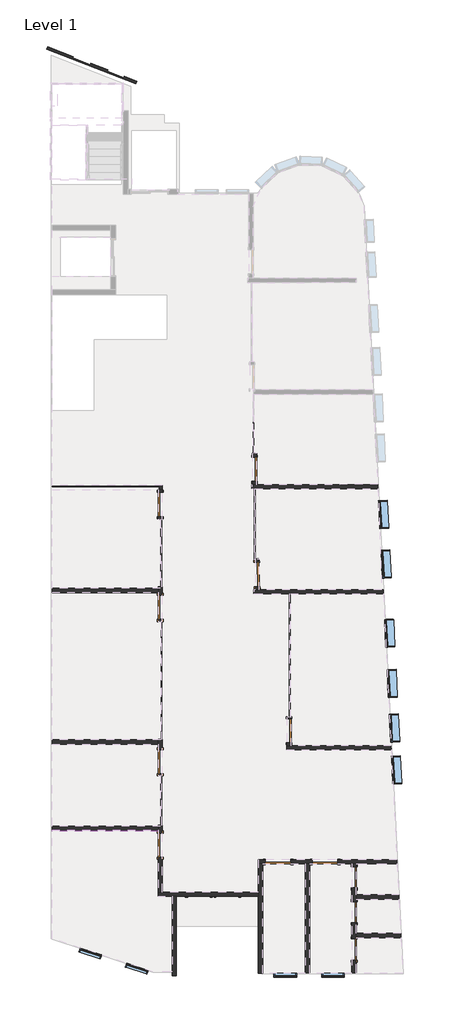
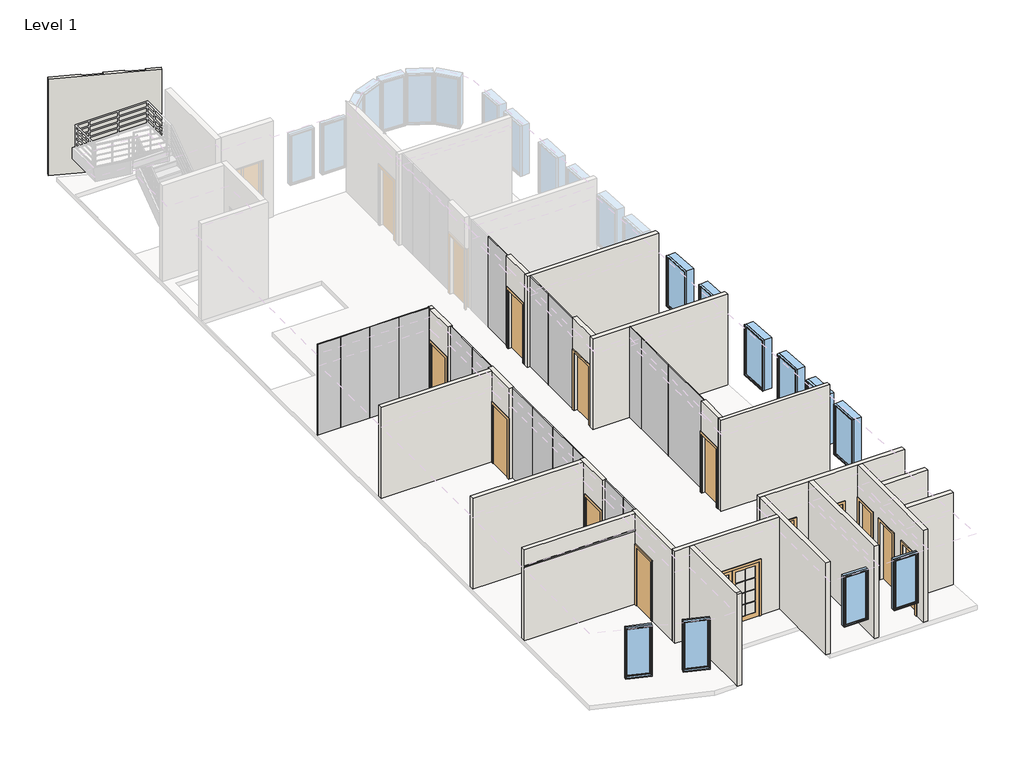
# One storey, part 1 of 4: 23 walls, 18 plates, 13 doors, 10 windows, 1 proxy.
"""IFC4 building model written with IfcOpenShell, lengths in millimetres."""

from ifc_helpers import new_model, si_unit, frame, origin, place, context, project, spatial, polyline, outline, extrude, faceted_brep, transform, mapped, element, save
from components import doors_1_doors_1_441175f9, m_single_flush_0762_x_2134mm_6e0fa8c7, m_single_flush_0864_x_2134mm_191ab4f9, m_single_flush_0915_x_2134mm_138fd904, system_panel_glazed_0a5cd876, system_panel_glazed_80297cd5, system_panel_glazed_2786322a, system_panel_glazed_84f5b725, system_panel_glazed_2528ea48, system_panel_glazed_aaef7275, system_panel_glazed_4545aa77, system_panel_glazed_6fbf2da9, system_panel_glazed_ad9418b8, system_panel_glazed_ed1850e7, system_panel_glazed_77398edd, system_panel_glazed_36099b5c, system_panel_glazed_c9b22899, system_panel_glazed_ebff84d4, system_panel_glazed_1be0ba14, system_panel_glazed_9542b9a6, wall_394c6471, m_fixed_0815_x_1830mm_2_422ed95c, m_fixed_1000_x_1830mm_2_ae03b894

model = new_model("IFC4")

# Units and contexts
model_context = context("Model", 3, world=origin())
ifc_project = project(units=[si_unit("LENGTHUNIT", "METRE", prefix="MILLI")], contexts=[model_context])

# Site, building, storey
site = spatial("IfcSite", under=ifc_project)
building = spatial("IfcBuilding", under=site)
storey = spatial("IfcBuildingStorey", under=building, Name="Level 1", Elevation=4500.0)

# Proxy
placement = place(None, origin())
element("IfcBuildingElementProxy", 1, Name="Reveal", ObjectType="Reveal", at=placement, inside=storey, context=model_context, shape_type="SweptSolid", body=[
    extrude(outline(polyline([(3749.6376114, -12798.8791407), (3749.6376114, -12848.8791407), (-50.0000039, -12848.8791407), (-50.0000039, -12798.8791407), (3749.6376114, -12798.8791407)])), frame((0.0, 0.0, 7175.0), z_axis=(0.0, 0.0, 1.0), x_axis=(1.0, 0.0, 0.0)), (0.0, 0.0, 1.0), 50.0),
])

# Doors
doors_1_doors_1_shape = doors_1_doors_1_441175f9(model_context)
element("IfcDoor", 2, ObjectType="Doors 1 : Doors 1", at=placement, inside=storey, context=model_context, shape_type="MappedRepresentation", body=[
    mapped(doors_1_doors_1_shape, transform((0.0, 0.0, 0.0), x_axis=(1.0, 0.0, 0.0), y_axis=(0.0, 1.0, 0.0), z_axis=(0.0, 0.0, 1.0))),
])
m_single_flush_0762_x_2134mm_shape = m_single_flush_0762_x_2134mm_6e0fa8c7(model_context)
element("IfcDoor", 3, ObjectType="M_Single-Flush : 0762 x 2134mm", at=placement, inside=storey, context=model_context, shape_type="MappedRepresentation", body=[
    mapped(m_single_flush_0762_x_2134mm_shape, transform((10772.5716703, -14508.5279318, 4500.0), x_axis=(0.0, 1.0, 0.0), y_axis=(-1.0, 0.0, 0.0), z_axis=(0.0, 0.0, 1.0))),
])
element("IfcDoor", 4, ObjectType="M_Single-Flush : 0762 x 2134mm", at=placement, inside=storey, context=model_context, shape_type="MappedRepresentation", body=[
    mapped(m_single_flush_0762_x_2134mm_shape, transform((10772.5716703, -15758.5279318, 4500.0), x_axis=(0.0, 1.0, 0.0), y_axis=(-1.0, 0.0, 0.0), z_axis=(0.0, 0.0, 1.0))),
])
element("IfcDoor", 5, ObjectType="M_Single-Flush : 0762 x 2134mm", at=placement, inside=storey, context=model_context, shape_type="MappedRepresentation", body=[
    mapped(m_single_flush_0762_x_2134mm_shape, transform((10772.5716703, -17098.5279318, 4500.0), x_axis=(0.0, 1.0, 0.0), y_axis=(-1.0, 0.0, 0.0), z_axis=(0.0, 0.0, 1.0))),
])
m_single_flush_0864_x_2134mm_shape = m_single_flush_0864_x_2134mm_191ab4f9(model_context)
element("IfcDoor", 6, ObjectType="M_Single-Flush : 0864 x 2134mm", at=placement, inside=storey, context=model_context, shape_type="MappedRepresentation", body=[
    mapped(m_single_flush_0864_x_2134mm_shape, transform((3824.6376114, -10369.5773389, 4500.0), x_axis=(0.0, 1.0, 0.0), y_axis=(-1.0, 0.0, 0.0), z_axis=(0.0, 0.0, 1.0))),
])
element("IfcDoor", 7, ObjectType="M_Single-Flush : 0864 x 2134mm", at=placement, inside=storey, context=model_context, shape_type="MappedRepresentation", body=[
    mapped(m_single_flush_0864_x_2134mm_shape, transform((3824.6376114, -4835.7038617, 4500.0), x_axis=(0.0, 1.0, 0.0), y_axis=(-1.0, 0.0, 0.0), z_axis=(0.0, 0.0, 1.0))),
])
element("IfcDoor", 8, ObjectType="M_Single-Flush : 0864 x 2134mm", at=placement, inside=storey, context=model_context, shape_type="MappedRepresentation", body=[
    mapped(m_single_flush_0864_x_2134mm_shape, transform((3824.6376114, -1149.1675364, 4500.0), x_axis=(0.0, 1.0, 0.0), y_axis=(-1.0, 0.0, 0.0), z_axis=(0.0, 0.0, 1.0))),
])
element("IfcDoor", 9, ObjectType="M_Single-Flush : 0864 x 2134mm", at=placement, inside=storey, context=model_context, shape_type="MappedRepresentation", body=[
    mapped(m_single_flush_0864_x_2134mm_shape, transform((3824.6376114, -13355.8791407, 4500.0), x_axis=(0.0, 1.0, 0.0), y_axis=(-1.0, 0.0, 0.0), z_axis=(0.0, 0.0, 1.0))),
])
element("IfcDoor", 10, ObjectType="M_Single-Flush : 0864 x 2134mm", at=placement, inside=storey, context=model_context, shape_type="MappedRepresentation", body=[
    mapped(m_single_flush_0864_x_2134mm_shape, transform((7197.8570765, 107.177138, 4500.0), x_axis=(0.0, -1.0, 0.0), y_axis=(1.0, 0.0, 0.0), z_axis=(0.0, 0.0, 1.0))),
])
element("IfcDoor", 11, ObjectType="M_Single-Flush : 0864 x 2134mm", at=placement, inside=storey, context=model_context, shape_type="MappedRepresentation", body=[
    mapped(m_single_flush_0864_x_2134mm_shape, transform((7288.4725755, -3657.4129777, 4500.0), x_axis=(0.01987244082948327, -0.9998025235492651, 0.0), y_axis=(0.9998025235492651, 0.01987244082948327, 0.0), z_axis=(0.0, 0.0, 1.0))),
])
element("IfcDoor", 12, ObjectType="M_Single-Flush : 0864 x 2134mm", at=placement, inside=storey, context=model_context, shape_type="MappedRepresentation", body=[
    mapped(m_single_flush_0864_x_2134mm_shape, transform((8435.4667664, -9258.0867626, 4500.0), x_axis=(0.0, -1.0, 0.0), y_axis=(1.0, 0.0, 0.0), z_axis=(0.0, 0.0, 1.0))),
])
m_single_flush_0915_x_2134mm_shape = m_single_flush_0915_x_2134mm_138fd904(model_context)
element("IfcDoor", 13, ObjectType="M_Single-Flush : 0915 x 2134mm", at=placement, inside=storey, context=model_context, shape_type="MappedRepresentation", body=[
    mapped(m_single_flush_0915_x_2134mm_shape, transform((9730.071739, -13952.5279318, 4500.0), x_axis=(-1.0, 0.0, 0.0), y_axis=(0.0, -1.0, 0.0), z_axis=(0.0, 0.0, 1.0))),
])
element("IfcDoor", 14, ObjectType="M_Single-Flush : 0915 x 2134mm", at=placement, inside=storey, context=model_context, shape_type="MappedRepresentation", body=[
    mapped(m_single_flush_0915_x_2134mm_shape, transform((8047.5200629, -13952.5279318, 4500.0), x_axis=(-1.0, 0.0, 0.0), y_axis=(0.0, -1.0, 0.0), z_axis=(0.0, 0.0, 1.0))),
])

# Plates
system_panel_glazed_shape = system_panel_glazed_0a5cd876(model_context)
element("IfcPlate", 15, ObjectType="System Panel : Glazed", at=placement, inside=storey, context=model_context, shape_type="MappedRepresentation", body=[
    mapped(system_panel_glazed_shape, transform((8499.9667664, -5865.0867626, 4500.0), x_axis=(0.0, 1.0, 0.0), y_axis=(-1.0, 0.0, 0.0), z_axis=(0.0, 0.0, 1.0))),
])
system_panel_glazed_2_shape = system_panel_glazed_80297cd5(model_context)
element("IfcPlate", 16, ObjectType="System Panel : Glazed", at=placement, inside=storey, context=model_context, shape_type="MappedRepresentation", body=[
    mapped(system_panel_glazed_2_shape, transform((8499.9667664, -4710.1957662, 4500.0), x_axis=(0.0, 1.0, 0.0), y_axis=(-1.0, 0.0, 0.0), z_axis=(0.0, 0.0, 1.0))),
])
system_panel_glazed_3_shape = system_panel_glazed_2786322a(model_context)
element("IfcPlate", 17, ObjectType="System Panel : Glazed", at=placement, inside=storey, context=model_context, shape_type="MappedRepresentation", body=[
    mapped(system_panel_glazed_3_shape, transform((7249.3137467, -1140.3486306, 4500.0), x_axis=(0.0, 1.0, 0.0), y_axis=(-1.0, 0.0, 0.0), z_axis=(0.0, 0.0, 1.0))),
])
system_panel_glazed_4_shape = system_panel_glazed_84f5b725(model_context)
element("IfcPlate", 18, ObjectType="System Panel : Glazed", at=placement, inside=storey, context=model_context, shape_type="MappedRepresentation", body=[
    mapped(system_panel_glazed_4_shape, transform((3834.6376114, -5937.1675364, 4500.0), x_axis=(0.0, -1.0, 0.0), y_axis=(1.0, 0.0, 0.0), z_axis=(0.0, 0.0, 1.0))),
])
element("IfcPlate", 19, ObjectType="System Panel : Glazed", at=placement, inside=storey, context=model_context, shape_type="MappedRepresentation", body=[
    mapped(system_panel_glazed_4_shape, transform((3834.6376114, -7137.1675364, 4500.0), x_axis=(0.0, -1.0, 0.0), y_axis=(1.0, 0.0, 0.0), z_axis=(0.0, 0.0, 1.0))),
])
system_panel_glazed_5_shape = system_panel_glazed_2528ea48(model_context)
element("IfcPlate", 20, ObjectType="System Panel : Glazed", at=placement, inside=storey, context=model_context, shape_type="MappedRepresentation", body=[
    mapped(system_panel_glazed_5_shape, transform((2239.6376114, -467.1675364, 4500.0), x_axis=(-1.0, 0.0, 0.0), y_axis=(0.0, -1.0, 0.0), z_axis=(0.0, 0.0, 1.0))),
])
element("IfcPlate", 21, ObjectType="System Panel : Glazed", at=placement, inside=storey, context=model_context, shape_type="MappedRepresentation", body=[
    mapped(system_panel_glazed_5_shape, transform((1239.6376114, -467.1675364, 4500.0), x_axis=(-1.0, 0.0, 0.0), y_axis=(0.0, -1.0, 0.0), z_axis=(0.0, 0.0, 1.0))),
])
system_panel_glazed_6_shape = system_panel_glazed_aaef7275(model_context)
element("IfcPlate", 22, ObjectType="System Panel : Glazed", at=placement, inside=storey, context=model_context, shape_type="MappedRepresentation", body=[
    mapped(system_panel_glazed_6_shape, transform((8499.9667664, -7715.0867626, 4500.0), x_axis=(0.0, 1.0, 0.0), y_axis=(-1.0, 0.0, 0.0), z_axis=(0.0, 0.0, 1.0))),
])
system_panel_glazed_7_shape = system_panel_glazed_4545aa77(model_context)
element("IfcPlate", 23, ObjectType="System Panel : Glazed", at=placement, inside=storey, context=model_context, shape_type="MappedRepresentation", body=[
    mapped(system_panel_glazed_7_shape, transform((7249.3137467, -2397.2928434, 4500.0), x_axis=(0.0, 1.0, 0.0), y_axis=(-1.0, 0.0, 0.0), z_axis=(0.0, 0.0, 1.0))),
])
system_panel_glazed_8_shape = system_panel_glazed_6fbf2da9(model_context)
element("IfcPlate", 24, ObjectType="System Panel : Glazed", at=placement, inside=storey, context=model_context, shape_type="MappedRepresentation", body=[
    mapped(system_panel_glazed_8_shape, transform((7197.8570765, 1241.8692038, 4500.0), x_axis=(0.0, 1.0, 0.0), y_axis=(-1.0, 0.0, 0.0), z_axis=(0.0, 0.0, 1.0))),
])
system_panel_glazed_9_shape = system_panel_glazed_ad9418b8(model_context)
element("IfcPlate", 25, ObjectType="System Panel : Glazed", at=placement, inside=storey, context=model_context, shape_type="MappedRepresentation", body=[
    mapped(system_panel_glazed_9_shape, transform((3824.6376114, -2327.1675364, 4500.0), x_axis=(0.0, -1.0, 0.0), y_axis=(1.0, 0.0, 0.0), z_axis=(0.0, 0.0, 1.0))),
])
system_panel_glazed_10_shape = system_panel_glazed_ed1850e7(model_context)
element("IfcPlate", 26, ObjectType="System Panel : Glazed", at=placement, inside=storey, context=model_context, shape_type="MappedRepresentation", body=[
    mapped(system_panel_glazed_10_shape, transform((3824.6376114, -3537.1675364, 4500.0), x_axis=(0.0, -1.0, 0.0), y_axis=(1.0, 0.0, 0.0), z_axis=(0.0, 0.0, 1.0))),
])
system_panel_glazed_11_shape = system_panel_glazed_77398edd(model_context)
element("IfcPlate", 27, ObjectType="System Panel : Glazed", at=placement, inside=storey, context=model_context, shape_type="MappedRepresentation", body=[
    mapped(system_panel_glazed_11_shape, transform((3834.6376114, -8338.848693, 4500.0), x_axis=(0.0, -1.0, 0.0), y_axis=(1.0, 0.0, 0.0), z_axis=(0.0, 0.0, 1.0))),
])
system_panel_glazed_12_shape = system_panel_glazed_36099b5c(model_context)
element("IfcPlate", 28, ObjectType="System Panel : Glazed", at=placement, inside=storey, context=model_context, shape_type="MappedRepresentation", body=[
    mapped(system_panel_glazed_12_shape, transform((3834.6376114, -9248.848693, 4500.0), x_axis=(0.0, -1.0, 0.0), y_axis=(1.0, 0.0, 0.0), z_axis=(0.0, 0.0, 1.0))),
])
system_panel_glazed_13_shape = system_panel_glazed_c9b22899(model_context)
element("IfcPlate", 29, ObjectType="System Panel : Glazed", at=placement, inside=storey, context=model_context, shape_type="MappedRepresentation", body=[
    mapped(system_panel_glazed_13_shape, transform((3824.6376114, -11407.1675364, 4500.0), x_axis=(0.0, -1.0, 0.0), y_axis=(1.0, 0.0, 0.0), z_axis=(0.0, 0.0, 1.0))),
])
system_panel_glazed_14_shape = system_panel_glazed_ebff84d4(model_context)
element("IfcPlate", 30, ObjectType="System Panel : Glazed", at=placement, inside=storey, context=model_context, shape_type="MappedRepresentation", body=[
    mapped(system_panel_glazed_14_shape, transform((3824.6376114, -12297.1675364, 4500.0), x_axis=(0.0, -1.0, 0.0), y_axis=(1.0, 0.0, 0.0), z_axis=(0.0, 0.0, 1.0))),
])
system_panel_glazed_15_shape = system_panel_glazed_1be0ba14(model_context)
element("IfcPlate", 31, ObjectType="System Panel : Glazed", at=placement, inside=storey, context=model_context, shape_type="MappedRepresentation", body=[
    mapped(system_panel_glazed_15_shape, transform((3259.6376114, -467.1675364, 4500.0), x_axis=(-1.0, 0.0, 0.0), y_axis=(0.0, -1.0, 0.0), z_axis=(0.0, 0.0, 1.0))),
])
system_panel_glazed_16_shape = system_panel_glazed_9542b9a6(model_context)
element("IfcPlate", 32, ObjectType="System Panel : Glazed", at=placement, inside=storey, context=model_context, shape_type="MappedRepresentation", body=[
    mapped(system_panel_glazed_16_shape, transform((344.8188037, -467.1675364, 4500.0), x_axis=(-1.0, 0.0, 0.0), y_axis=(0.0, -1.0, 0.0), z_axis=(0.0, 0.0, 1.0))),
])

# Walls
element("IfcWall", 33, ObjectType="Generic - 15cm-gypsu-2boith", at=placement, inside=storey, context=model_context, shape_type="Brep", body=[
    faceted_brep([(11612.8107888, -430.9502585, 4500.0), (7272.8570765, -443.3366135, 4500.0), (7122.8570765, -443.7647178, 4500.0), (7102.1267533, -443.8238828, 4500.0), (7102.1267533, -443.8238828, 7800.0), (7122.8570765, -443.7647178, 7800.0), (7272.8570765, -443.3366135, 7800.0), (11612.8107888, -430.9502585, 7800.0), (11620.447224, -580.9290748, 4500.0), (11620.447224, -580.9290748, 7800.0), (7102.5548559, -593.8232719, 7800.0), (7102.5548559, -593.8232719, 4500.0)], [[[0, 1, 2, 3, 4, 5, 6, 7]], [[8, 9, 10, 11]], [[3, 2, 1, 0, 8, 11]], [[4, 3, 11, 10]], [[7, 6, 5, 4, 10, 9]], [[0, 7, 9, 8]]]),
])
element("IfcWall", 34, ObjectType="Generic - 15cm-gypsu-2boith", at=placement, inside=storey, context=model_context, shape_type="Brep", body=[
    faceted_brep([(11804.9886858, -4205.3047697, 4500.0), (7374.3774869, -4205.3047697, 4500.0), (7224.3478595, -4205.3047697, 4500.0), (7177.3194387, -4205.3047697, 4500.0), (7177.3194387, -4205.3047697, 7800.0), (7224.3478595, -4205.3047697, 7800.0), (7374.3774869, -4205.3047697, 7800.0), (11804.9886858, -4205.3047697, 7800.0), (11812.6261996, -4355.3047697, 4500.0), (11812.6261996, -4355.3047697, 7800.0), (7177.3194387, -4355.3047697, 7800.0), (7177.3194387, -4355.3047697, 4500.0)], [[[0, 1, 2, 3, 4, 5, 6, 7]], [[8, 9, 10, 11]], [[3, 2, 1, 0, 8, 11]], [[4, 3, 11, 10]], [[7, 6, 5, 4, 10, 9]], [[0, 7, 9, 8]]]),
])
element("IfcWall", 35, ObjectType="Generic - 15cm-gypsu-2boith", at=placement, inside=storey, context=model_context, shape_type="SweptSolid", body=[
    extrude(outline(polyline([(3779.6376114, -467.1675364), (3899.6376114, -467.1675364), (3899.6376114, -617.1675364), (3779.6376114, -617.1675364), (3779.6376114, -467.1675364)])), frame((0.0, 0.0, 4500.0), z_axis=(0.0, 0.0, 1.0), x_axis=(1.0, 0.0, 0.0)), (0.0, 0.0, 1.0), 3300.0),
])
element("IfcWall", 36, ObjectType="Generic - 15cm-gypsu-2boith", at=placement, inside=storey, context=model_context, shape_type="SweptSolid", body=[
    extrude(outline(polyline([(-50.0000039, -4153.7038617), (3749.6376114, -4153.7038617), (3749.6376114, -4303.7038617), (-50.0000039, -4303.7038617), (-50.0000039, -4153.7038617)])), frame((0.0, 0.0, 4500.0), z_axis=(0.0, 0.0, 1.0), x_axis=(1.0, 0.0, 0.0)), (0.0, 0.0, 1.0), 3300.0),
])
element("IfcWall", 37, ObjectType="Generic - 15cm-gypsu-2boith", at=placement, inside=storey, context=model_context, shape_type="SweptSolid", body=[
    extrude(outline(polyline([(-12673.8791407, 7800.0), (-12673.8791407, 4500.0), (-12823.8791407, 4500.0), (-12823.8791407, 7175.0), (-12798.8791407, 7175.0), (-12798.8791407, 7225.0), (-12823.8791407, 7225.0), (-12823.8791407, 7800.0), (-12673.8791407, 7800.0)])), frame((-50.0000039, 0.0, 0.0), z_axis=(1.0, 0.0, 0.0), x_axis=(0.0, 1.0, 0.0)), (0.0, 0.0, 1.0), 3799.6376153),
])
element("IfcWall", 38, ObjectType="Generic - 15cm-granit&gypsum", at=placement, inside=storey, context=model_context, shape_type="Brep", body=[
    faceted_brep([(3749.6376114, -617.1675364, 4500.0), (3749.6376114, -717.1675364, 4500.0), (3749.6376114, -717.1675364, 6634.0), (3749.6376114, -1581.1675364, 6634.0), (3749.6376114, -1581.1675364, 4500.0), (3749.6376114, -1677.1675364, 4500.0), (3749.6376114, -1677.1675364, 7800.0), (3749.6376114, -617.1675364, 7800.0), (3899.6376114, -717.1675364, 6634.0), (3899.6376114, -717.1675364, 4500.0), (3899.6376114, -617.1675364, 4500.0), (3899.6376114, -617.1675364, 7800.0), (3899.6376114, -1677.1675364, 7800.0), (3899.6376114, -1677.1675364, 4500.0), (3899.6376114, -1581.1675364, 4500.0), (3899.6376114, -1581.1675364, 6634.0), (3779.6376114, -617.1675364, 4500.0), (3779.6376114, -617.1675364, 7800.0)], [[[0, 1, 2, 3, 4, 5, 6, 7]], [[8, 9, 10, 11, 12, 13, 14, 15]], [[14, 13, 5, 4]], [[10, 9, 1, 0, 16]], [[6, 5, 13, 12]], [[7, 6, 12, 11, 17]], [[0, 7, 17, 11, 10, 16]], [[2, 1, 9, 8]], [[3, 2, 8, 15]], [[4, 3, 15, 14]]]),
])
element("IfcWall", 39, ObjectType="Generic - 15cm-gypsu-2boith", at=placement, inside=storey, context=model_context, shape_type="SweptSolid", body=[
    extrude(outline(polyline([(-48.7142884, -9587.5773389), (3749.6376114, -9587.5773389), (3749.6376114, -9737.5773389), (-48.7142884, -9737.5773389), (-48.7142884, -9587.5773389)])), frame((0.0, 0.0, 4500.0), z_axis=(0.0, 0.0, 1.0), x_axis=(1.0, 0.0, 0.0)), (0.0, 0.0, 1.0), 3300.0),
])
element("IfcWall", 40, ObjectType="Generic - 15cm-gypsu-2boith", at=placement, inside=storey, context=model_context, shape_type="Brep", body=[
    faceted_brep([(8360.4667664, -9940.0867626, 4500.0), (12096.9851954, -9940.0867626, 4500.0), (12096.9851954, -9940.0867626, 7800.0), (8360.4667664, -9940.0867626, 7800.0), (8360.4667664, -9790.0867626, 4500.0), (8360.4667664, -9790.0867626, 7800.0), (8510.4667664, -9790.0867626, 7800.0), (12089.3476816, -9790.0867626, 7800.0), (12089.3476816, -9790.0867626, 4500.0), (8510.4667664, -9790.0867626, 4500.0)], [[[0, 1, 2, 3]], [[4, 5, 6, 7, 8, 9]], [[1, 0, 4, 9, 8]], [[3, 2, 7, 6, 5]], [[0, 3, 5, 4]], [[2, 1, 8, 7]]]),
])
element("IfcWall", 41, ObjectType="Generic - 15cm-gypsu-2boith", at=placement, inside=storey, context=model_context, shape_type="SweptSolid", body=[
    extrude(outline(polyline([(-9690.0867626, 6634.0), (-9690.0867626, 4500.0), (-9790.0867626, 4500.0), (-9790.0867626, 7800.0), (-8765.0867626, 7800.0), (-8765.0867626, 4500.0), (-8826.0867626, 4500.0), (-8826.0867626, 6634.0), (-9690.0867626, 6634.0)])), frame((8360.4667664, 0.0, 0.0), z_axis=(1.0, 0.0, 0.0), x_axis=(0.0, 1.0, 0.0)), (0.0, 0.0, 1.0), 150.0),
])
element("IfcWall", 42, ObjectType="Generic - 15cm-gypsu-2boith", at=placement, inside=storey, context=model_context, shape_type="Brep", body=[
    faceted_brep([(7122.8570765, -324.822862, 6634.0), (7122.8570765, -324.822862, 4500.0), (7122.8570765, -443.7647178, 4500.0), (7122.8570765, -443.7647178, 7800.0), (7122.8570765, 681.4490289, 7800.0), (7122.8570765, 681.4490289, 4500.0), (7122.8570765, 539.177138, 4500.0), (7122.8570765, 539.177138, 6634.0), (7272.8570765, -443.3366135, 4500.0), (7272.8570765, -324.822862, 4500.0), (7272.8570765, -324.822862, 6634.0), (7272.8570765, 539.177138, 6634.0), (7272.8570765, 539.177138, 4500.0), (7272.8570765, 681.4490289, 4500.0), (7272.8570765, 681.4490289, 7800.0), (7272.8570765, -443.3366135, 7800.0)], [[[0, 1, 2, 3, 4, 5, 6, 7]], [[8, 9, 10, 11, 12, 13, 14, 15]], [[6, 5, 13, 12]], [[2, 1, 9, 8]], [[4, 3, 15, 14]], [[5, 4, 14, 13]], [[12, 11, 7, 6]], [[11, 10, 0, 7]], [[10, 9, 1, 0]], [[3, 2, 8, 15]]]),
])
element("IfcWall", 43, ObjectType="Generic - 15cm-gypsu-2boith", at=placement, inside=storey, context=model_context, shape_type="Brep", body=[
    faceted_brep([(7224.3478595, -4205.3047697, 7800.0), (7202.4187312, -3102.028225, 7800.0), (7202.4187312, -3102.028225, 4500.0), (7204.9024917, -3226.9887206, 4500.0), (7204.9024917, -3226.9887206, 6634.0), (7222.0722806, -4090.818101, 6634.0), (7222.0722806, -4090.818101, 4500.0), (7224.3478595, -4205.3047697, 4500.0), (7352.3891097, -3099.0473589, 7800.0), (7374.3774869, -4205.3047697, 7800.0), (7374.3774869, -4205.3047697, 4500.0), (7372.0426592, -4087.8372348, 4500.0), (7372.0426592, -4087.8372348, 6634.0), (7354.8728703, -3224.0078545, 6634.0), (7354.8728703, -3224.0078545, 4500.0), (7352.3891097, -3099.0473589, 4500.0), (7249.3137467, -3101.0961225, 4500.0), (7249.3137467, -3107.2928434, 4500.0), (7274.3137467, -3107.2928434, 4500.0), (7274.3137467, -3100.5992133, 4500.0), (7274.3137467, -3100.5992133, 7800.0), (7274.3137467, -3107.2928434, 7800.0), (7249.3137467, -3107.2928434, 7800.0), (7249.3137467, -3101.0961225, 7800.0)], [[[0, 1, 2, 3, 4, 5, 6, 7]], [[8, 9, 10, 11, 12, 13, 14, 15]], [[10, 7, 6, 11]], [[14, 3, 2, 16, 17, 18, 19, 15]], [[1, 0, 9, 8, 20, 21, 22, 23]], [[2, 1, 23, 16]], [[8, 15, 19, 20]], [[0, 7, 10, 9]], [[14, 13, 4, 3]], [[13, 12, 5, 4]], [[12, 11, 6, 5]], [[18, 21, 20, 19]], [[22, 17, 16, 23]], [[21, 18, 17, 22]]]),
])
element("IfcWall", 44, ObjectType="Generic - 15cm-granit&gypsum", at=placement, inside=storey, context=model_context, shape_type="Brep", body=[
    faceted_brep([(3749.6376114, -5337.1675364, 4500.0), (3749.6376114, -5337.1675364, 7800.0), (3749.6376114, -4303.7038617, 7800.0), (3749.6376114, -4153.7038617, 7800.0), (3749.6376114, -4097.1675364, 7800.0), (3749.6376114, -4097.1675364, 4500.0), (3749.6376114, -4153.7038617, 4500.0), (3749.6376114, -4303.7038617, 4500.0), (3749.6376114, -4403.7038617, 4500.0), (3749.6376114, -4403.7038617, 6634.0), (3749.6376114, -5267.7038617, 6634.0), (3749.6376114, -5267.7038617, 4500.0), (3899.6376114, -5337.1675364, 7800.0), (3899.6376114, -5337.1675364, 4500.0), (3899.6376114, -5267.7038617, 4500.0), (3899.6376114, -5267.7038617, 6634.0), (3899.6376114, -4403.7038617, 6634.0), (3899.6376114, -4403.7038617, 4500.0), (3899.6376114, -4097.1675364, 4500.0), (3899.6376114, -4097.1675364, 7800.0)], [[[0, 1, 2, 3, 4, 5, 6, 7, 8, 9, 10, 11]], [[12, 13, 14, 15, 16, 17, 18, 19]], [[13, 0, 11, 14]], [[5, 18, 17, 8, 7, 6]], [[1, 0, 13, 12]], [[4, 3, 2, 1, 12, 19]], [[5, 4, 19, 18]], [[16, 9, 8, 17]], [[9, 16, 15, 10]], [[10, 15, 14, 11]]]),
])
element("IfcWall", 45, ObjectType="Generic - 15cm-granit&gypsum", at=placement, inside=storey, context=model_context, shape_type="Brep", body=[
    faceted_brep([(3749.6376114, -10857.1675364, 4500.0), (3749.6376114, -10857.1675364, 7800.0), (3749.6376114, -9737.5773389, 7800.0), (3749.6376114, -9587.5773389, 7800.0), (3749.6376114, -9557.1675364, 7800.0), (3749.6376114, -9557.1675364, 4500.0), (3749.6376114, -9587.5773389, 4500.0), (3749.6376114, -9737.5773389, 4500.0), (3749.6376114, -9937.5773389, 4500.0), (3749.6376114, -9937.5773389, 6634.0), (3749.6376114, -10801.5773389, 6634.0), (3749.6376114, -10801.5773389, 4500.0), (3899.6376114, -10857.1675364, 7800.0), (3899.6376114, -10857.1675364, 4500.0), (3899.6376114, -10801.5773389, 4500.0), (3899.6376114, -10801.5773389, 6634.0), (3899.6376114, -9937.5773389, 6634.0), (3899.6376114, -9937.5773389, 4500.0), (3899.6376114, -9557.1675364, 4500.0), (3899.6376114, -9557.1675364, 7800.0)], [[[0, 1, 2, 3, 4, 5, 6, 7, 8, 9, 10, 11]], [[12, 13, 14, 15, 16, 17, 18, 19]], [[13, 0, 11, 14]], [[5, 18, 17, 8, 7, 6]], [[1, 0, 13, 12]], [[4, 3, 2, 1, 12, 19]], [[5, 4, 19, 18]], [[16, 9, 8, 17]], [[9, 16, 15, 10]], [[10, 15, 14, 11]]]),
])
element("IfcWall", 46, ObjectType="Generic - 15cm-granit&gypsum", at=placement, inside=storey, context=model_context, shape_type="Brep", body=[
    faceted_brep([(3749.6376114, -15035.1933026, 7800.0), (3749.6376114, -12823.8791407, 7800.0), (3749.6376114, -12673.8791407, 7800.0), (3749.6376114, -12637.1675364, 7800.0), (3749.6376114, -12637.1675364, 4500.0), (3749.6376114, -12673.8791407, 4500.0), (3749.6376114, -12823.8791407, 4500.0), (3749.6376114, -12923.8791407, 4500.0), (3749.6376114, -12923.8791407, 6634.0), (3749.6376114, -13787.8791407, 6634.0), (3749.6376114, -13787.8791407, 4500.0), (3749.6376114, -15035.1933026, 4500.0), (3899.6376114, -12637.1675364, 7800.0), (3899.6376114, -15035.1933026, 7800.0), (3899.6376114, -15035.1933026, 4500.0), (3899.6376114, -13787.8791407, 4500.0), (3899.6376114, -13787.8791407, 6634.0), (3899.6376114, -12923.8791407, 6634.0), (3899.6376114, -12923.8791407, 4500.0), (3899.6376114, -12637.1675364, 4500.0)], [[[0, 1, 2, 3, 4, 5, 6, 7, 8, 9, 10, 11]], [[12, 13, 14, 15, 16, 17, 18, 19]], [[4, 19, 18, 7, 6, 5]], [[14, 11, 10, 15]], [[3, 2, 1, 0, 13, 12]], [[4, 3, 12, 19]], [[17, 8, 7, 18]], [[8, 17, 16, 9]], [[9, 16, 15, 10]], [[0, 11, 14, 13]]]),
])
element("IfcWall", 47, ObjectType="Generic - 15cm-granit&gypsum", at=placement, inside=storey, context=model_context, shape_type="Brep", body=[
    faceted_brep([(9272.571739, -13877.5279318, 6634.0), (9272.571739, -13877.5279318, 4500.0), (8505.0200629, -13877.5279318, 4500.0), (8505.0200629, -13877.5279318, 6634.0), (7590.0200629, -13877.5279318, 6634.0), (7590.0200629, -13877.5279318, 4500.0), (7340.0200629, -13877.5279318, 4500.0), (7340.0200629, -13877.5279318, 7850.0), (12297.4669364, -13877.5279318, 7850.0), (12297.4669364, -13877.5279318, 4500.0), (10187.571739, -13877.5279318, 4500.0), (10187.571739, -13877.5279318, 6634.0), (9272.571739, -14027.5279318, 4500.0), (9272.571739, -14027.5279318, 6634.0), (10187.571739, -14027.5279318, 6634.0), (10187.571739, -14027.5279318, 4500.0), (10692.5716703, -14027.5279318, 4500.0), (10852.5716703, -14027.5279318, 4500.0), (12305.1044502, -14027.5279318, 4500.0), (12305.1044502, -14027.5279318, 7850.0), (10852.5716703, -14027.5279318, 7850.0), (10692.5716703, -14027.5279318, 7850.0), (9172.571739, -14027.5279318, 7850.0), (9012.571739, -14027.5279318, 7850.0), (7490.0200629, -14027.5279318, 7850.0), (7340.0200629, -14027.5279318, 7850.0), (7340.0200629, -14027.5279318, 4500.0), (7490.0200629, -14027.5279318, 4500.0), (7590.0200629, -14027.5279318, 4500.0), (7590.0200629, -14027.5279318, 6634.0), (8505.0200629, -14027.5279318, 6634.0), (8505.0200629, -14027.5279318, 4500.0), (9012.571739, -14027.5279318, 4500.0), (9172.571739, -14027.5279318, 4500.0)], [[[0, 1, 2, 3, 4, 5, 6, 7, 8, 9, 10, 11]], [[12, 13, 14, 15, 16, 17, 18, 19, 20, 21, 22, 23, 24, 25, 26, 27, 28, 29, 30, 31, 32, 33]], [[9, 18, 17, 16, 15, 10]], [[1, 12, 33, 32, 31, 2]], [[5, 28, 27, 26, 6]], [[18, 9, 8, 19]], [[13, 12, 1, 0]], [[14, 13, 0, 11]], [[15, 14, 11, 10]], [[29, 28, 5, 4]], [[30, 29, 4, 3]], [[31, 30, 3, 2]], [[8, 7, 25, 24, 23, 22, 21, 20, 19]], [[6, 26, 25, 7]]]),
])
wall_shape = wall_394c6471(model_context)
element("IfcWall", 48, ObjectType="kamposite11 : kamposite2", at=placement, inside=storey, context=model_context, shape_type="MappedRepresentation", body=[
    mapped(wall_shape, transform((0.0, 0.0, 5500.1158128), x_axis=(1.0, 0.0, 0.0), y_axis=(0.0, 1.0, 0.0), z_axis=(0.0, 0.0, 1.0))),
])
element("IfcWall", 49, ObjectType="Generic - 15cm-granit 2", at=placement, inside=storey, context=model_context, shape_type="Brep", body=[
    faceted_brep([(3749.6376114, -15185.1933026, 4500.0), (4250.0200506, -15185.1933026, 4500.0), (4400.0200506, -15185.1933026, 4500.0), (7340.0200629, -15185.1933026, 4500.0), (7340.0200629, -15185.1933026, 7850.0), (4400.0200506, -15185.1933026, 7850.0), (4250.0200506, -15185.1933026, 7850.0), (3749.6376114, -15185.1933026, 7850.0), (3749.6376114, -15035.1933026, 4500.0), (3749.6376114, -15035.1933026, 7800.0), (3749.6376114, -15035.1933026, 7850.0), (7340.0200629, -15035.1933026, 7850.0), (7340.0200629, -15035.1933026, 4500.0), (3899.6376114, -15035.1933026, 4500.0)], [[[0, 1, 2, 3, 4, 5, 6, 7]], [[8, 9, 10, 11, 12, 13]], [[3, 2, 1, 0, 8, 13, 12]], [[7, 6, 5, 4, 11, 10]], [[4, 3, 12, 11]], [[0, 7, 10, 9, 8]]]),
])
element("IfcWall", 50, ObjectType="Generic - 15cm-granit 2", at=placement, inside=storey, context=model_context, shape_type="Brep", body=[
    faceted_brep([(4400.0200506, -18040.1949362, 4500.0), (4400.0200506, -15185.1933026, 4500.0), (4400.0200506, -15185.1933026, 7850.0), (4400.0200506, -17965.5937279, 7850.0), (4400.0200506, -18040.1949362, 7850.0), (4250.0200506, -18040.1949362, 4500.0), (4250.0200506, -18040.1949362, 7850.0), (4250.0200506, -17965.5937279, 7850.0), (4250.0200506, -17890.1949362, 7850.0), (4250.0200506, -15185.1933026, 7850.0), (4250.0200506, -15185.1933026, 4500.0), (4250.0200506, -17890.1949362, 4500.0), (4250.0200506, -17910.1949362, 4500.0)], [[[0, 1, 2, 3, 4]], [[5, 6, 7, 8, 9, 10, 11, 12]], [[1, 0, 5, 12, 11, 10]], [[0, 4, 6, 5]], [[4, 3, 7, 6]], [[3, 2, 9, 8, 7]], [[2, 1, 10, 9]]]),
])
element("IfcWall", 51, ObjectType="Generic - 15cm-granit 2", at=placement, inside=storey, context=model_context, shape_type="Brep", body=[
    faceted_brep([(7490.0200629, -17945.5937279, 4500.0), (7490.0200629, -14027.5279318, 4500.0), (7490.0200629, -14027.5279318, 7850.0), (7490.0200629, -17945.5937279, 7850.0), (7340.0200629, -17945.5937279, 4500.0), (7340.0200629, -17945.5937279, 7850.0), (7340.0200629, -15185.1933026, 7850.0), (7340.0200629, -15035.1933026, 7850.0), (7340.0200629, -14027.5279318, 7850.0), (7340.0200629, -14027.5279318, 4500.0), (7340.0200629, -15035.1933026, 4500.0), (7340.0200629, -15185.1933026, 4500.0), (7460.0200629, -17945.5937279, 4500.0)], [[[0, 1, 2, 3]], [[4, 5, 6, 7, 8, 9, 10, 11]], [[1, 0, 12, 4, 11, 10, 9]], [[0, 3, 5, 4, 12]], [[3, 2, 8, 7, 6, 5]], [[2, 1, 9, 8]]]),
])
element("IfcWall", 52, ObjectType="Generic - 20cm-granit2side", at=placement, inside=storey, context=model_context, shape_type="Brep", body=[
    faceted_brep([(10692.5716703, -14127.5279318, 4500.0), (10692.5716703, -14127.5279318, 6634.0), (10692.5716703, -14889.5279318, 6634.0), (10692.5716703, -14889.5279318, 4500.0), (10692.5716703, -15377.5279318, 4500.0), (10692.5716703, -15377.5279318, 6634.0), (10692.5716703, -16139.5279318, 6634.0), (10692.5716703, -16139.5279318, 4500.0), (10692.5716703, -16717.5279318, 4500.0), (10692.5716703, -16717.5279318, 6634.0), (10692.5716703, -17479.5279318, 6634.0), (10692.5716703, -17479.5279318, 4500.0), (10692.5716703, -17933.2491903, 4500.0), (10692.5716703, -17933.2491903, 7850.0), (10692.5716703, -14027.5279318, 7850.0), (10692.5716703, -14027.5279318, 4500.0), (10852.5716703, -14127.5279318, 6634.0), (10852.5716703, -14127.5279318, 4500.0), (10852.5716703, -14027.5279318, 4500.0), (10852.5716703, -14027.5279318, 7850.0), (10852.5716703, -15137.5279318, 7850.0), (10852.5716703, -15297.5279318, 7850.0), (10852.5716703, -16517.5279318, 7850.0), (10852.5716703, -16677.5279318, 7850.0), (10852.5716703, -17933.2491903, 7850.0), (10852.5716703, -17933.2491903, 4500.0), (10852.5716703, -17479.5279318, 4500.0), (10852.5716703, -17479.5279318, 6634.0), (10852.5716703, -16717.5279318, 6634.0), (10852.5716703, -16717.5279318, 4500.0), (10852.5716703, -16677.5279318, 4500.0), (10852.5716703, -16517.5279318, 4500.0), (10852.5716703, -16139.5279318, 4500.0), (10852.5716703, -16139.5279318, 6634.0), (10852.5716703, -15377.5279318, 6634.0), (10852.5716703, -15377.5279318, 4500.0), (10852.5716703, -15297.5279318, 4500.0), (10852.5716703, -15137.5279318, 4500.0), (10852.5716703, -14889.5279318, 4500.0), (10852.5716703, -14889.5279318, 6634.0)], [[[0, 1, 2, 3, 4, 5, 6, 7, 8, 9, 10, 11, 12, 13, 14, 15]], [[16, 17, 18, 19, 20, 21, 22, 23, 24, 25, 26, 27, 28, 29, 30, 31, 32, 33, 34, 35, 36, 37, 38, 39]], [[25, 12, 11, 26]], [[15, 18, 17, 0]], [[3, 38, 37, 36, 35, 4]], [[7, 32, 31, 30, 29, 8]], [[12, 25, 24, 13]], [[18, 15, 14, 19]], [[1, 0, 17, 16]], [[2, 1, 16, 39]], [[3, 2, 39, 38]], [[5, 4, 35, 34]], [[6, 5, 34, 33]], [[7, 6, 33, 32]], [[9, 8, 29, 28]], [[10, 9, 28, 27]], [[11, 10, 27, 26]], [[14, 13, 24, 23, 22, 21, 20, 19]]]),
])
element("IfcWall", 53, ObjectType="Generic - 20cm-granit2side", at=placement, inside=storey, context=model_context, shape_type="SweptSolid", body=[
    extrude(outline(polyline([(9012.571739, -17933.729644), (9012.571739, -14027.5279318), (9172.571739, -14027.5279318), (9172.571739, -17933.729644), (9012.571739, -17933.729644)])), frame((0.0, 0.0, 4500.0), z_axis=(0.0, 0.0, 1.0), x_axis=(1.0, 0.0, 0.0)), (0.0, 0.0, 1.0), 3350.0),
])
element("IfcWall", 54, ObjectType="Generic - 20cm-granit2side", at=placement, inside=storey, context=model_context, shape_type="SweptSolid", body=[
    extrude(outline(polyline([(12369.7687334, -15297.5279318), (10852.5716703, -15297.5279318), (10852.5716703, -15137.5279318), (12361.6220521, -15137.5279318), (12369.7687334, -15297.5279318)])), frame((0.0, 0.0, 4500.0), z_axis=(0.0, 0.0, 1.0), x_axis=(1.0, 0.0, 0.0)), (0.0, 0.0, 1.0), 3350.0),
])
element("IfcWall", 55, ObjectType="Generic - 20cm-granit2side", at=placement, inside=storey, context=model_context, shape_type="SweptSolid", body=[
    extrude(outline(polyline([(12440.0338601, -16677.5279318), (10852.5716703, -16677.5279318), (10852.5716703, -16517.5279318), (12431.8871787, -16517.5279318), (12440.0338601, -16677.5279318)])), frame((0.0, 0.0, 4500.0), z_axis=(0.0, 0.0, 1.0), x_axis=(1.0, 0.0, 0.0)), (0.0, 0.0, 1.0), 3350.0),
])

# Windows
m_fixed_0815_x_1830mm_2_shape = m_fixed_0815_x_1830mm_2_422ed95c(model_context)
element("IfcWindow", 56, ObjectType="M_Fixed : 0815 x 1830mm 2", at=placement, inside=storey, context=model_context, shape_type="MappedRepresentation", body=[
    mapped(m_fixed_0815_x_1830mm_2_shape, transform((2979.6341254, -17794.9524054, 5095.0), x_axis=(0.94980967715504, -0.31282835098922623, 0.0), y_axis=(0.31282835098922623, 0.94980967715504, 0.0), z_axis=(0.0, 0.0, 1.0))),
])
element("IfcWindow", 57, ObjectType="M_Fixed : 0815 x 1830mm 2", at=placement, inside=storey, context=model_context, shape_type="MappedRepresentation", body=[
    mapped(m_fixed_0815_x_1830mm_2_shape, transform((1312.718142, -17245.9386494, 5095.0), x_axis=(0.94980967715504, -0.31282835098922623, 0.0), y_axis=(0.31282835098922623, 0.94980967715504, 0.0), z_axis=(0.0, 0.0, 1.0))),
])
element("IfcWindow", 58, ObjectType="M_Fixed : 0815 x 1830mm 2", at=placement, inside=storey, context=model_context, shape_type="MappedRepresentation", body=[
    mapped(m_fixed_0815_x_1830mm_2_shape, transform((8297.5200629, -18007.5937279, 5095.0), x_axis=(-1.0, 0.0, 0.0), y_axis=(0.0, -1.0, 0.0), z_axis=(0.0, 0.0, 1.0))),
])
element("IfcWindow", 59, ObjectType="M_Fixed : 0815 x 1830mm 2", at=placement, inside=storey, context=model_context, shape_type="MappedRepresentation", body=[
    mapped(m_fixed_0815_x_1830mm_2_shape, transform((10012.5200629, -18007.5937279, 5095.0), x_axis=(-1.0, 0.0, 0.0), y_axis=(0.0, -1.0, 0.0), z_axis=(0.0, 0.0, 1.0))),
])
m_fixed_1000_x_1830mm_2_shape = m_fixed_1000_x_1830mm_2_ae03b894(model_context)
element("IfcWindow", 60, ObjectType="M_Fixed : 1000 x 1830mm 2", at=placement, inside=storey, context=model_context, shape_type="MappedRepresentation", body=[
    mapped(m_fixed_1000_x_1830mm_2_shape, transform((12057.5077679, -5762.6500713, 5095.0), x_axis=(-0.05085088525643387, 0.9987062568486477, 0.0), y_axis=(-0.9987062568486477, -0.05085088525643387, 0.0), z_axis=(0.0, 0.0, 1.0))),
])
element("IfcWindow", 61, ObjectType="M_Fixed : 1000 x 1830mm 2", at=placement, inside=storey, context=model_context, shape_type="MappedRepresentation", body=[
    mapped(m_fixed_1000_x_1830mm_2_shape, transform((11840.6599624, -1503.7810461, 5095.0), x_axis=(-0.05085088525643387, 0.9987062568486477, 0.0), y_axis=(-0.9987062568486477, -0.05085088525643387, 0.0), z_axis=(0.0, 0.0, 1.0))),
])
element("IfcWindow", 62, ObjectType="M_Fixed : 1000 x 1830mm 2", at=placement, inside=storey, context=model_context, shape_type="MappedRepresentation", body=[
    mapped(m_fixed_1000_x_1830mm_2_shape, transform((11931.1745382, -3281.4781833, 5095.0), x_axis=(-0.05085088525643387, 0.9987062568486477, 0.0), y_axis=(-0.9987062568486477, -0.05085088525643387, 0.0), z_axis=(0.0, 0.0, 1.0))),
])
element("IfcWindow", 63, ObjectType="M_Fixed : 1000 x 1830mm 2", at=placement, inside=storey, context=model_context, shape_type="MappedRepresentation", body=[
    mapped(m_fixed_1000_x_1830mm_2_shape, transform((12149.0393614, -7560.3213336, 5095.0), x_axis=(-0.05085088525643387, 0.9987062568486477, 0.0), y_axis=(-0.9987062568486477, -0.05085088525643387, 0.0), z_axis=(0.0, 0.0, 1.0))),
])
element("IfcWindow", 64, ObjectType="M_Fixed : 1000 x 1830mm 2", at=placement, inside=storey, context=model_context, shape_type="MappedRepresentation", body=[
    mapped(m_fixed_1000_x_1830mm_2_shape, transform((12230.4007778, -9158.2513446, 5095.0), x_axis=(-0.05085088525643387, 0.9987062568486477, 0.0), y_axis=(-0.9987062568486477, -0.05085088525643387, 0.0), z_axis=(0.0, 0.0, 1.0))),
])
element("IfcWindow", 65, ObjectType="M_Fixed : 1000 x 1830mm 2", at=placement, inside=storey, context=model_context, shape_type="MappedRepresentation", body=[
    mapped(m_fixed_1000_x_1830mm_2_shape, transform((12306.6771057, -10656.3107299, 5095.0), x_axis=(-0.05085088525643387, 0.9987062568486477, 0.0), y_axis=(-0.9987062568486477, -0.05085088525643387, 0.0), z_axis=(0.0, 0.0, 1.0))),
])

save(model, "model.ifc")
